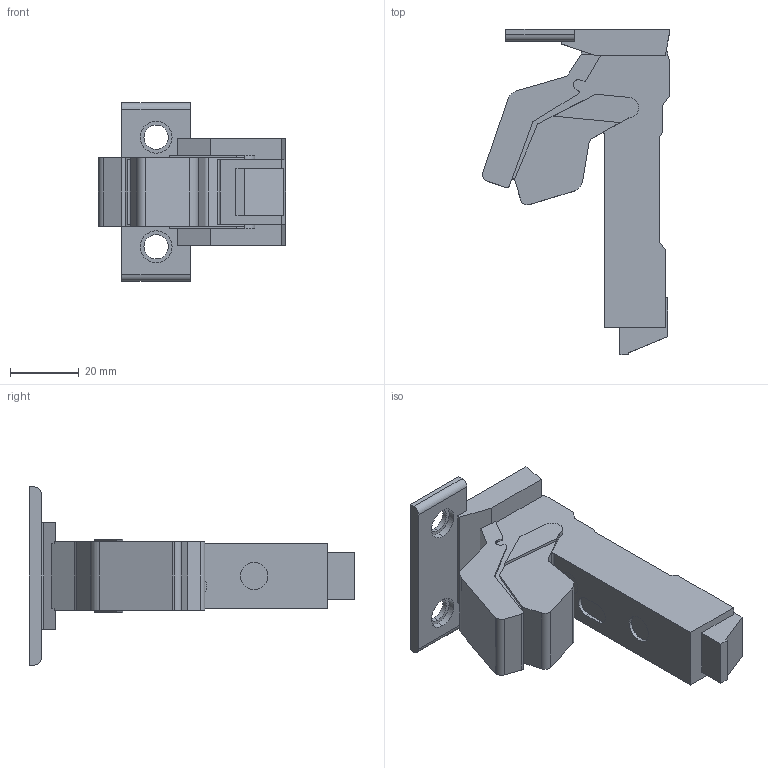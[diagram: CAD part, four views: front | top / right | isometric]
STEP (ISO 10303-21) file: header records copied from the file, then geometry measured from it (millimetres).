
FILE_DESCRIPTION (( 'STEP AP214' ), '1' );
FILE_NAME ('Gehäuse M0, K14, geschlossen, neutral, Platte 00 - Neu -.step', '2019-10-01T07:52:23', ( '' ), ( '' ), 'SwSTEP 2.0', 'SolidWorks 2019', '' );
FILE_SCHEMA (( 'AUTOMOTIVE_DESIGN' ));
Length unit declared in the file: millimetre
Products named in the file (1): Gehäuse M0, K14, geschlossen, neutral, Platte 00 - Neu -
Bounding box: 54.64 x 95.11 x 52 mm (x, y, z)
Volume: 56618.3 mm3; surface area: 14862.8 mm2
Topology: 1 solids, 1 shells, 127 faces, 360 edges, 240 vertices
Faces by surface type: plane 79, cylinder 48
Entity records: 4172 total; most frequent: CARTESIAN_POINT 728, ORIENTED_EDGE 720, DIRECTION 712, EDGE_CURVE 360, LINE 264, VECTOR 264, VERTEX_POINT 240, AXIS2_PLACEMENT_3D 224
